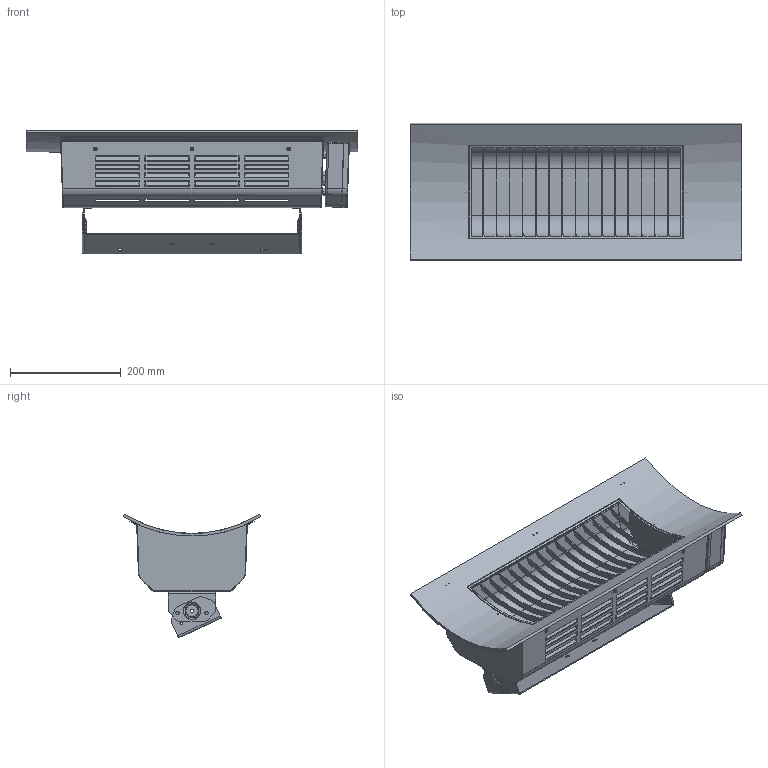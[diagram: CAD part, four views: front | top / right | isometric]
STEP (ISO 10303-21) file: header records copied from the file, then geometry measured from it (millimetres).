
FILE_DESCRIPTION(('FreeCAD Model'),'2;1');
FILE_NAME('Open CASCADE Shape Model','2026-06-17T07:19:04',(''),(''), 'Open CASCADE STEP processor 7.8','FreeCAD','Unknown');
FILE_SCHEMA(('AUTOMOTIVE_DESIGN { 1 0 10303 214 1 1 1 1 }'));
Length unit declared in the file: millimetre
Products named in the file (19): Oasi; CLO_GR-POSTERIORE_ASM; CLO_POSTERIORE; CLO_PARABOLA; CLO_GR-SCATOLA-ESTERNA_ASM; CLO_BASE-SCATOLA-EST; CLO_COPERCHIO-SCATOLA-EST; CLO_GR-FRONTALE_ASM; CLO_FRONTALE; SOLID018; COMPOUND; CLO_GRIGLIA; CLO_COPERCHIO-PROGRAM; CLO_GR-SNODO_ASM; CLO_SNODO; CLO_GR-SNODO_ASM001; CLO_SNODO001; CLO_GR-STAFFA-MURO_ASM; CLO_STAFFA-MURO
Assembly tree (18 placements, depth 4):
  Oasi
    CLO_GR-POSTERIORE_ASM
      CLO_POSTERIORE
    CLO_PARABOLA
    CLO_GR-SCATOLA-ESTERNA_ASM
      CLO_BASE-SCATOLA-EST
      CLO_COPERCHIO-SCATOLA-EST
    CLO_GR-FRONTALE_ASM
      CLO_FRONTALE
        SOLID018
        COMPOUND
      CLO_GRIGLIA
    CLO_COPERCHIO-PROGRAM
    CLO_GR-SNODO_ASM
      CLO_SNODO
    CLO_GR-SNODO_ASM001
      CLO_SNODO001
    CLO_GR-STAFFA-MURO_ASM
      CLO_STAFFA-MURO
Bounding box: 600 x 249.3 x 223.78 mm (x, y, z)
Volume: 1076337.2 mm3; surface area: 1275446.5 mm2
Topology: 10 solids, 18 shells, 2641 faces, 6410 edges, 4119 vertices
Faces by surface type: plane 1262, cylinder 530, cone 339, bspline 323, torus 175, sphere 8, extrusion 4
Entity records: 96289 total; most frequent: CARTESIAN_POINT 35123, ORIENTED_EDGE 12540, DIRECTION 11977, EDGE_CURVE 6286, AXIS2_PLACEMENT_3D 4103, VECTOR 3771, LINE 3767, VERTEX_POINT 3735
